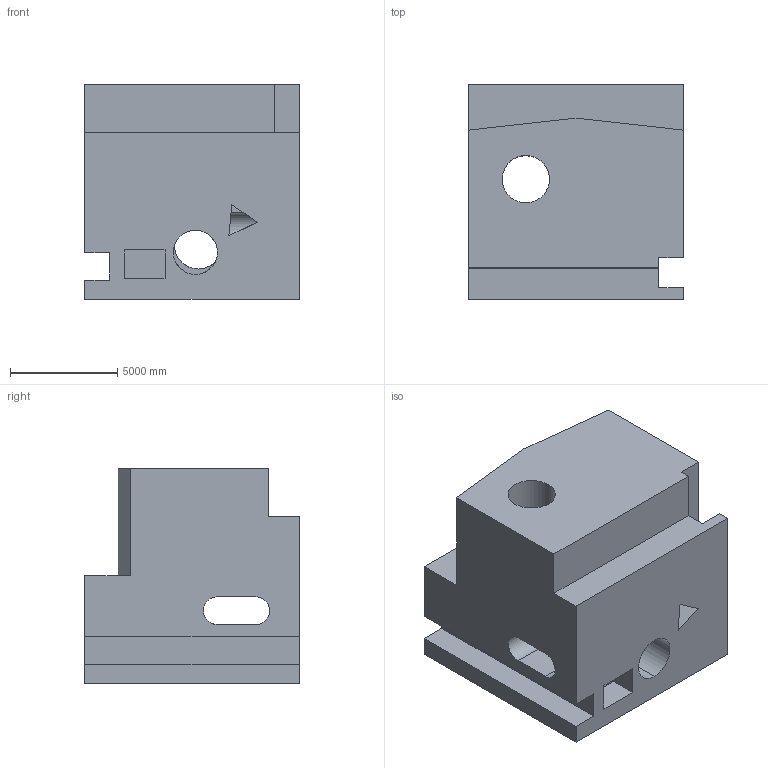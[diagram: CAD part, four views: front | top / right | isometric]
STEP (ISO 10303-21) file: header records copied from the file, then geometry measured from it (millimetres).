
FILE_DESCRIPTION (( 'STEP AP203' ), '1' );
FILE_NAME ('913.STEP', '2022-07-29T14:15:15', ( 'user' ), ( '' ), 'SwSTEP 2.0', 'SolidWorks 2021', '' );
FILE_SCHEMA (( 'CONFIG_CONTROL_DESIGN' ));
Length unit declared in the file: centimetre
Products named in the file (1): 913
Bounding box: 10000 x 10000 x 10000 mm (x, y, z)
Volume: 731410476553.3 mm3; surface area: 800053109 mm2
Topology: 1 solids, 1 shells, 42 faces, 126 edges, 84 vertices
Faces by surface type: plane 34, cylinder 8
Entity records: 1813 total; most frequent: CARTESIAN_POINT 574, ORIENTED_EDGE 252, DIRECTION 227, EDGE_CURVE 126, LINE 97, VECTOR 97, VERTEX_POINT 84, AXIS2_PLACEMENT_3D 65
